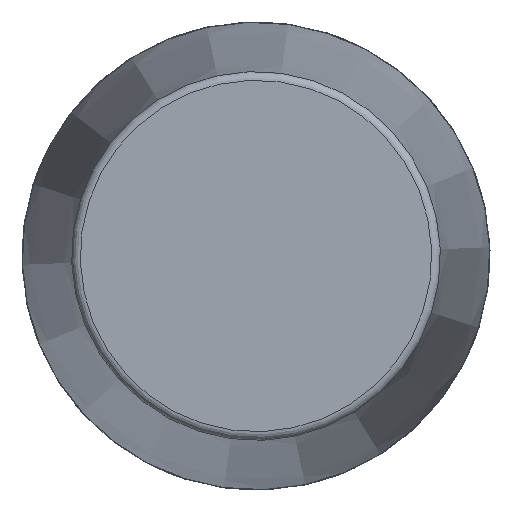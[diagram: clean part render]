
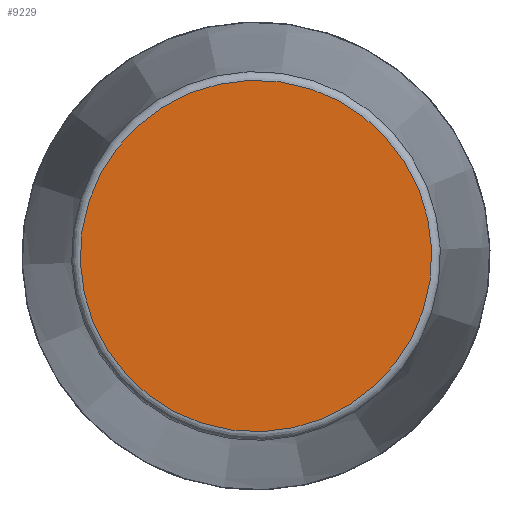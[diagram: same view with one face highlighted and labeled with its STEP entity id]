
A CAD part, front view. The second image highlights one B-rep face of the part: STEP entity #9229.
In plain terms, the highlighted planar face has unit normal (0, -1, 0) as drawn and (1, 0, 0) by its records, which use the part's own axes.
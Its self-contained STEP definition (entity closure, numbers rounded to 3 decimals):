
#2524=PLANE('',#9571);
#3137=FACE_OUTER_BOUND('',#3726,.T.);
#3726=EDGE_LOOP('',(#8687));
#3767=CIRCLE('',#9567,101.338);
#4677=VERTEX_POINT('',#17680);
#6017=EDGE_CURVE('',#4677,#4677,#3767,.T.);
#8687=ORIENTED_EDGE('',*,*,#6017,.F.);
#9229=ADVANCED_FACE('',(#3137),#2524,.T.);
#9567=AXIS2_PLACEMENT_3D('',#17681,#10826,#10827);
#9571=AXIS2_PLACEMENT_3D('',#17687,#10834,#10835);
#10826=DIRECTION('center_axis',(-1.,0.,0.));
#10827=DIRECTION('ref_axis',(0.,0.,
1.));
#10834=DIRECTION('center_axis',(1.,0.,0.));
#10835=DIRECTION('ref_axis',(0.,0.,-1.));
#17680=CARTESIAN_POINT('',(506.,0.,-101.338));
#17681=CARTESIAN_POINT('Origin',(506.,0.,0.));
#17687=CARTESIAN_POINT('Origin',(506.,0.,0.));
